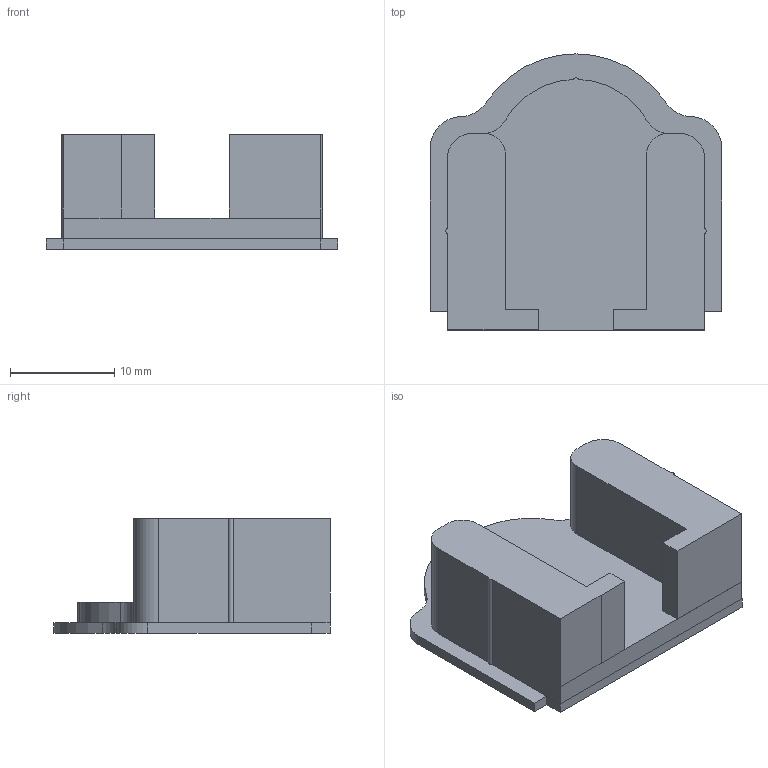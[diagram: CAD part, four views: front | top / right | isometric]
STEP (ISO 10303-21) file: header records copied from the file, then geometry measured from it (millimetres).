
FILE_DESCRIPTION(/* description */ (''),/* implementation_level */ '2;1');
FILE_NAME(/* name */ 'C:\Users\user\Desktop\Cubierta Sensor\Part2.stp',/* time_stamp */ '2018-06-09T12:38:07-05:00',/* author */ ('user'),/* organization */ (''),/* preprocessor_version */ 'ST-DEVELOPER v16.5',/* originating_system */ 'Autodesk Inventor 2017',/* authorisation */ '');
FILE_SCHEMA (('AUTOMOTIVE_DESIGN { 1 0 10303 214 3 1 1 }'));
Length unit declared in the file: millimetre
Products named in the file (1): Part2
Bounding box: 28 x 26.53 x 11 mm (x, y, z)
Volume: 3437.4 mm3; surface area: 2425.5 mm2
Topology: 1 solids, 1 shells, 49 faces, 130 edges, 83 vertices
Faces by surface type: plane 33, cylinder 16
Entity records: 1538 total; most frequent: CARTESIAN_POINT 263, DIRECTION 262, ORIENTED_EDGE 260, EDGE_CURVE 130, LINE 98, VECTOR 98, VERTEX_POINT 83, AXIS2_PLACEMENT_3D 82
